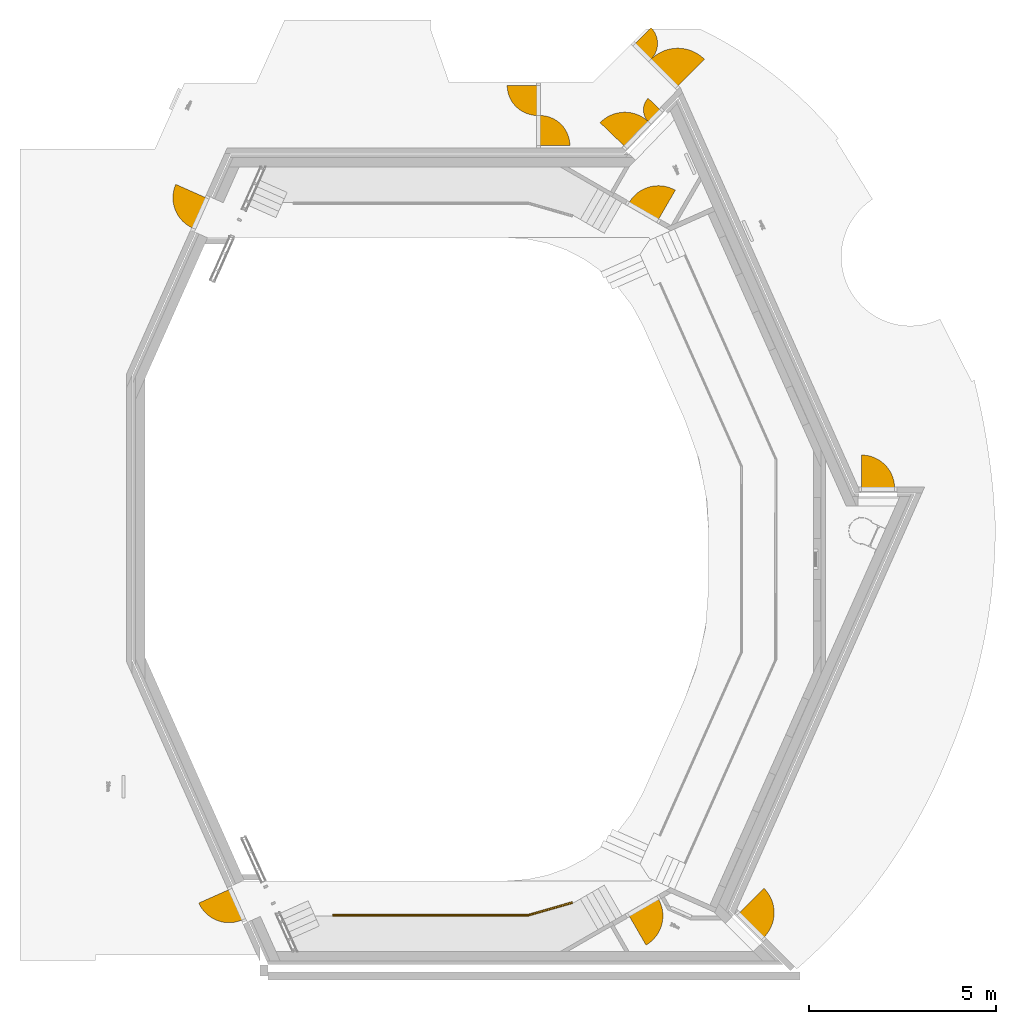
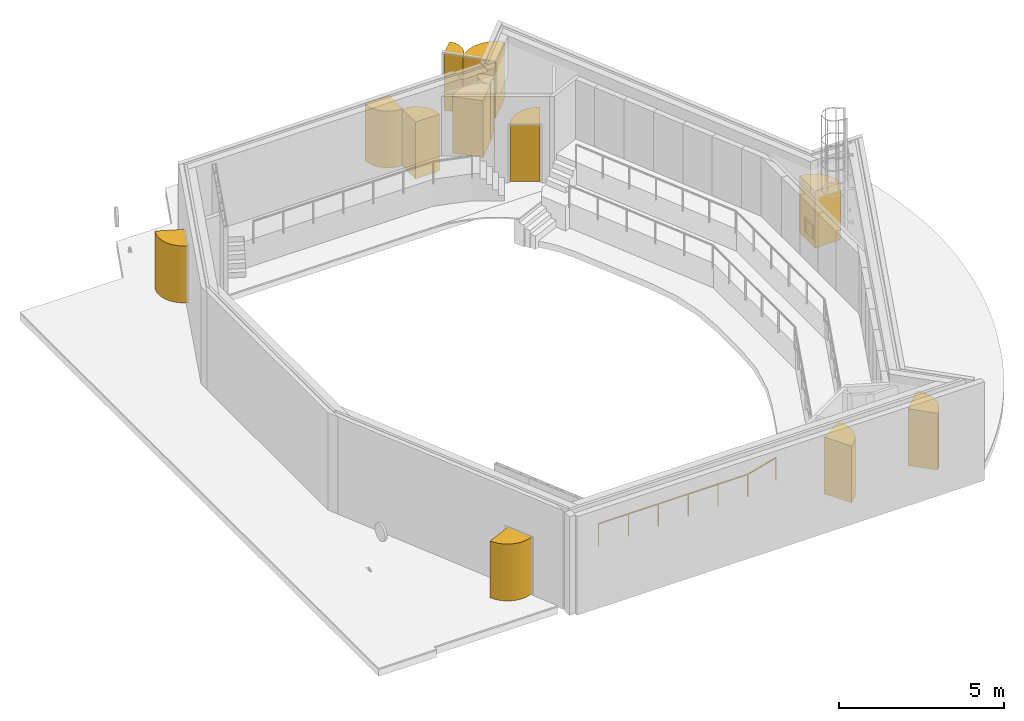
# One storey, part 12 of 16: 12 doors, 2 railings, 9 elements without a shape of their own.
"""IFC2X3 building model written with IfcOpenShell, lengths in millimetres."""

from ifc_helpers import new_model, entity, si_unit, converted_unit, derived_unit, direction, frame, frame_2d, origin, origin_2d_with_axis, place, context, subcontext, project, spatial, polyline, circle_curve, parameter, trimmed, segment, composite_curve, rectangle, circle, outline, extrude, source, transform, mapped, material, material_list, type_object, type_shapes, element, aggregate, save


model = new_model("IFC2X3")

# Units and contexts
model_context = context("Model", 3, precision=0.01, world=origin(), true_north=direction((6.123031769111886e-17, 1.0)))
body_context = subcontext(model_context, "Body", "Model", "MODEL_VIEW")
ifc_project = project(units=[si_unit("LENGTHUNIT", "METRE", prefix="MILLI"), si_unit("AREAUNIT", "SQUARE_METRE"), si_unit("VOLUMEUNIT", "CUBIC_METRE"), converted_unit("PLANEANGLEUNIT", "DEGREE", entity("IfcRatioMeasure", 0.017453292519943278), si_unit("PLANEANGLEUNIT", "RADIAN"), dimensions=[0, 0, 0, 0, 0, 0, 0]), si_unit("MASSUNIT", "GRAM", prefix="KILO"), derived_unit("MASSDENSITYUNIT", [(si_unit("MASSUNIT", "GRAM", prefix="KILO"), 1), (si_unit("LENGTHUNIT", "METRE"), -3)]), derived_unit("MOMENTOFINERTIAUNIT", [(si_unit("LENGTHUNIT", "METRE"), 4)]), si_unit("TIMEUNIT", "SECOND"), si_unit("FREQUENCYUNIT", "HERTZ"), si_unit("THERMODYNAMICTEMPERATUREUNIT", "DEGREE_CELSIUS"), derived_unit("THERMALTRANSMITTANCEUNIT", [(si_unit("MASSUNIT", "GRAM", prefix="KILO"), 1), (si_unit("THERMODYNAMICTEMPERATUREUNIT", "KELVIN"), -1), (si_unit("TIMEUNIT", "SECOND"), -3)]), derived_unit("VOLUMETRICFLOWRATEUNIT", [(si_unit("LENGTHUNIT", "METRE"), 3), (si_unit("TIMEUNIT", "SECOND"), -1)]), derived_unit("MASSFLOWRATEUNIT", [(si_unit("MASSUNIT", "GRAM", prefix="KILO"), 1), (si_unit("TIMEUNIT", "SECOND"), -1)]), derived_unit("ROTATIONALFREQUENCYUNIT", [(si_unit("TIMEUNIT", "SECOND"), -1)]), si_unit("ELECTRICCURRENTUNIT", "AMPERE"), si_unit("ELECTRICVOLTAGEUNIT", "VOLT"), si_unit("POWERUNIT", "WATT"), si_unit("FORCEUNIT", "NEWTON", prefix="KILO"), si_unit("ILLUMINANCEUNIT", "LUX"), si_unit("LUMINOUSFLUXUNIT", "LUMEN"), si_unit("LUMINOUSINTENSITYUNIT", "CANDELA"), derived_unit("USERDEFINED", [(si_unit("MASSUNIT", "GRAM", prefix="KILO"), -1), (si_unit("LENGTHUNIT", "METRE"), -2), (si_unit("TIMEUNIT", "SECOND"), 3), (si_unit("LUMINOUSFLUXUNIT", "LUMEN"), 1)]), derived_unit("SOUNDPOWERUNIT", [(si_unit("MASSUNIT", "GRAM", prefix="KILO"), 1), (si_unit("LENGTHUNIT", "METRE"), 2), (si_unit("TIMEUNIT", "SECOND"), -3)]), derived_unit("SOUNDPRESSUREUNIT", [(si_unit("MASSUNIT", "GRAM", prefix="KILO"), 1), (si_unit("LENGTHUNIT", "METRE"), -1), (si_unit("TIMEUNIT", "SECOND"), -2)]), derived_unit("LINEARVELOCITYUNIT", [(si_unit("LENGTHUNIT", "METRE"), 1), (si_unit("TIMEUNIT", "SECOND"), -1)]), si_unit("PRESSUREUNIT", "PASCAL"), derived_unit("USERDEFINED", [(si_unit("LENGTHUNIT", "METRE"), -2), (si_unit("MASSUNIT", "GRAM", prefix="KILO"), 1), (si_unit("TIMEUNIT", "SECOND"), -2)]), derived_unit("LINEARFORCEUNIT", [(si_unit("MASSUNIT", "GRAM", prefix="KILO"), 1), (si_unit("LENGTHUNIT", "METRE"), 1), (si_unit("TIMEUNIT", "SECOND"), -2), (si_unit("LENGTHUNIT", "METRE"), -1)]), derived_unit("PLANARFORCEUNIT", [(si_unit("MASSUNIT", "GRAM", prefix="KILO"), 1), (si_unit("LENGTHUNIT", "METRE"), 1), (si_unit("TIMEUNIT", "SECOND"), -2), (si_unit("LENGTHUNIT", "METRE"), -2)])], contexts=[model_context])

# Site, building, storey
site_placement = place(None, frame((-10000.0, -10000.0, 0.0)))
site = spatial("IfcSite", under=ifc_project, at=site_placement, Name="Default", CompositionType="ELEMENT")
building_placement = place(site_placement, origin())
building = spatial("IfcBuilding", under=site, at=building_placement, CompositionType="ELEMENT")
storey_placement = place(building_placement, frame((0.0, 0.0, 9000.0)))
storey = spatial("IfcBuildingStorey", under=building, at=storey_placement, Name="02 2e verdieping", CompositionType="ELEMENT", Elevation=9000.0)

# Curtain wall, door
curtain_wall_type = type_object("IfcCurtainWallType", Name="Curtain Wall:NLRS_32_CWA_houten binnenkozijnen ts90_ags", PredefinedType="NOTDEFINED")
curtain_wall_1_placement = place(storey_placement, frame((0.0, 0.0, -9000.0)))
curtain_wall_1 = element("IfcCurtainWall", 1, at=curtain_wall_1_placement, inside=storey, type_object=curtain_wall_type, Name="Curtain Wall:NLRS_32_CWA_houten binnenkozijnen ts90_ags", ObjectType="Curtain Wall:NLRS_32_CWA_houten binnenkozijnen ts90_ags")
ifc_material_1 = material(Name="NLRS_a_clashvolume")
ifc_material_2 = material(Name="<Unnamed>")
ifc_material_list_1 = material_list([ifc_material_1, ifc_material_2])
ifc_material_list_2 = material_list([ifc_material_1, ifc_material_2])
door_style_1 = type_object("IfcDoorStyle", Name="NLRS_31_DO_houten deur_ags:deur dicht", ConstructionType="NOTDEFINED", OperationType="NOTDEFINED", ParameterTakesPrecedence=False, Sizeable=False, material=ifc_material_list_2)
shared_shape_1 = source(origin(), body_context, "Body", "SweptSolid", [
    extrude(outline(composite_curve([segment(trimmed(circle_curve(frame_2d((-302.0, 302.0), x_axis=(1.0, 0.0)), 906.0000000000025), [parameter(270.0)], [parameter(0.0)], True, "PARAMETER"), True, "CONTINUOUS"), segment(polyline([(604.0, 302.0), (-302.0, 302.0)]), True, "CONTINUOUS"), segment(polyline([(-302.0, 302.0), (-302.0, -604.0)]), True, "CONTINUOUS")], self_intersect=False)), frame((-151.0, -334.5000000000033, 0.0)), (0.0, 0.0, 1.0), 2103.0),
    extrude(rectangle(XDim=40.00000000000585, YDim=906.0000000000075, at=origin_2d_with_axis()), frame((0.0, -12.499999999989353, 0.0), z_axis=(0.0, 0.0, 1.0), x_axis=(0.0, 1.0, 0.0)), (0.0, 0.0, 1.0), 2103.0),
])
type_shapes(door_style_1, [shared_shape_1])
door_1_placement = place(curtain_wall_1_placement, frame((39119.472926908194, 29339.328285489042, 9000.0), z_axis=(0.0, 0.0, 1.0), x_axis=(0.8660254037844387, 0.5000000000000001, 0.0)))
door_1 = element("IfcDoor", 2, at=door_1_placement, type_object=door_style_1, material=ifc_material_list_1, Name="NLRS_31_DO_houten deur_ags:deur dicht", ObjectType="NLRS_31_DO_houten deur_ags:deur dicht", OverallHeight=2103.000000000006, OverallWidth=906.0000000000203, context=body_context, shape_type="MappedRepresentation", body=[
    mapped(shared_shape_1, transform((0.0, 0.0, 0.0), scale=1.0)),
])
aggregate(curtain_wall_1, [door_1])

curtain_wall_2_placement = place(storey_placement, frame((0.0, 0.0, -9000.0)))
curtain_wall_2 = element("IfcCurtainWall", 3, at=curtain_wall_2_placement, inside=storey, type_object=curtain_wall_type, Name="Curtain Wall:NLRS_32_CWA_houten binnenkozijnen ts90_ags", ObjectType="Curtain Wall:NLRS_32_CWA_houten binnenkozijnen ts90_ags")
ifc_material_list_3 = material_list([ifc_material_1, ifc_material_2])
ifc_material_list_4 = material_list([ifc_material_1, ifc_material_2])
door_style_2 = type_object("IfcDoorStyle", Name="NLRS_31_DO_houten deur_ags:deur dicht", ConstructionType="NOTDEFINED", OperationType="NOTDEFINED", ParameterTakesPrecedence=False, Sizeable=False, material=ifc_material_list_4)
shared_shape_2 = source(origin(), body_context, "Body", "SweptSolid", [
    extrude(outline(composite_curve([segment(polyline([(-590.6666666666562, -295.3333333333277), (295.333333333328, -295.3333333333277)]), True, "CONTINUOUS"), segment(polyline([(295.333333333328, -295.3333333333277), (295.333333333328, 590.6666666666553)]), True, "CONTINUOUS"), segment(trimmed(circle_curve(frame_2d((295.333333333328, -295.3333333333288), x_axis=(0.0, 1.0)), 885.9999999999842), [parameter(0.0)], [parameter(89.99999999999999)], True, "PARAMETER"), True, "CONTINUOUS")], self_intersect=False)), frame((147.6666666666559, -327.83333333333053, 0.0), z_axis=(0.0, 0.0, 1.0), x_axis=(0.0, 1.0, 0.0)), (0.0, 0.0, 1.0), 2103.0),
    extrude(rectangle(XDim=885.9999999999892, YDim=40.00000000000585, at=origin_2d_with_axis()), frame((0.0, -12.499999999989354, 0.0)), (0.0, 0.0, 1.0), 2103.0),
])
type_shapes(door_style_2, [shared_shape_2])
door_2_placement = place(curtain_wall_2_placement, frame((45413.57361464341, 40510.979027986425, 9000.0), z_axis=(0.0, 0.0, 1.0), x_axis=(-1.0, 0.0, 0.0)))
door_2 = element("IfcDoor", 4, at=door_2_placement, type_object=door_style_2, material=ifc_material_list_3, Name="NLRS_31_DO_houten deur_ags:deur dicht", ObjectType="NLRS_31_DO_houten deur_ags:deur dicht", OverallHeight=2103.000000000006, OverallWidth=886.0000000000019, context=body_context, shape_type="MappedRepresentation", body=[
    mapped(shared_shape_2, transform((0.0, 0.0, 0.0), scale=1.0)),
])
aggregate(curtain_wall_2, [door_2])

curtain_wall_3_placement = place(storey_placement, frame((0.0, 0.0, -9000.0)))
curtain_wall_3 = element("IfcCurtainWall", 5, at=curtain_wall_3_placement, inside=storey, type_object=curtain_wall_type, Name="Curtain Wall:NLRS_32_CWA_houten binnenkozijnen ts90_ags", ObjectType="Curtain Wall:NLRS_32_CWA_houten binnenkozijnen ts90_ags")
ifc_material_list_5 = material_list([ifc_material_1, ifc_material_2])
ifc_material_list_6 = material_list([ifc_material_1, ifc_material_2])
door_style_3 = type_object("IfcDoorStyle", Name="NLRS_31_DO_houten deur_ags:deur dicht", ConstructionType="NOTDEFINED", OperationType="NOTDEFINED", ParameterTakesPrecedence=False, Sizeable=False, material=ifc_material_list_6)
shared_shape_3 = source(origin(), body_context, "Body", "SweptSolid", [
    extrude(outline(composite_curve([segment(polyline([(-620.6666666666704, -310.3333333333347), (310.33333333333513, -310.3333333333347)]), True, "CONTINUOUS"), segment(polyline([(310.33333333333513, -310.33333333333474), (310.33333333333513, 620.6666666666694)]), True, "CONTINUOUS"), segment(trimmed(circle_curve(frame_2d((310.33333333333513, -310.33333333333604), x_axis=(0.0, 1.0)), 931.0000000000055), [parameter(0.0)], [parameter(89.99999999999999)], True, "PARAMETER"), True, "CONTINUOUS")], self_intersect=False)), frame((155.16666666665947, -342.83333333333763, 0.0), z_axis=(0.0, 0.0, 1.0), x_axis=(0.0, 1.0, 0.0)), (0.0, 0.0, 1.0), 2103.0),
    extrude(rectangle(XDim=931.0000000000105, YDim=40.00000000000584, at=origin_2d_with_axis()), frame((0.0, -12.499999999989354, 0.0)), (0.0, 0.0, 1.0), 2103.0),
])
type_shapes(door_style_3, [shared_shape_3])
door_3_placement = place(curtain_wall_3_placement, frame((42003.218005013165, 28814.782664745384, 9000.0), z_axis=(0.0, 0.0, 1.0), x_axis=(-0.7071067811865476, 0.7071067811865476, 0.0)))
door_3 = element("IfcDoor", 6, at=door_3_placement, type_object=door_style_3, material=ifc_material_list_5, Name="NLRS_31_DO_houten deur_ags:deur dicht", ObjectType="NLRS_31_DO_houten deur_ags:deur dicht", OverallHeight=2103.000000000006, OverallWidth=931.0000000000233, context=body_context, shape_type="MappedRepresentation", body=[
    mapped(shared_shape_3, transform((0.0, 0.0, 0.0), scale=1.0)),
])
aggregate(curtain_wall_3, [door_3])

# Curtain wall, doors
curtain_wall_4_placement = place(storey_placement, frame((0.0, 0.0, -9000.0)))
curtain_wall_4 = element("IfcCurtainWall", 7, at=curtain_wall_4_placement, inside=storey, type_object=curtain_wall_type, Name="Curtain Wall:NLRS_32_CWA_houten binnenkozijnen ts90_ags", ObjectType="Curtain Wall:NLRS_32_CWA_houten binnenkozijnen ts90_ags")
ifc_material_list_7 = material_list([ifc_material_1, ifc_material_2])
ifc_material_list_8 = material_list([ifc_material_1, ifc_material_2])
door_style_4 = type_object("IfcDoorStyle", Name="NLRS_31_DO_houten deur_ags:deur dicht", ConstructionType="NOTDEFINED", OperationType="NOTDEFINED", ParameterTakesPrecedence=False, Sizeable=False, material=ifc_material_list_8)
shared_shape_4 = source(origin(), body_context, "Body", "SweptSolid", [
    extrude(outline(composite_curve([segment(trimmed(circle_curve(frame_2d((-269.33174976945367, 269.3317497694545), x_axis=(1.0, 0.0)), 807.9952493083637), [parameter(270.0)], [parameter(0.0)], True, "PARAMETER"), True, "CONTINUOUS"), segment(polyline([(538.66349953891, 269.3317497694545), (-269.3317497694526, 269.3317497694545)]), True, "CONTINUOUS"), segment(polyline([(-269.3317497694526, 269.3317497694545), (-269.3317497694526, -538.6634995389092)]), True, "CONTINUOUS")], self_intersect=False)), frame((-134.66587488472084, -301.831749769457, 0.0)), (0.0, 0.0, 1.0), 2103.0),
    extrude(rectangle(XDim=40.00000000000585, YDim=807.9952493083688, at=origin_2d_with_axis()), frame((0.0, -12.499999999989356, 0.0), z_axis=(0.0, 0.0, 1.0), x_axis=(0.0, 1.0, 0.0)), (0.0, 0.0, 1.0), 2103.0),
])
type_shapes(door_style_4, [shared_shape_4])
door_4_placement = place(curtain_wall_4_placement, frame((36317.06459566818, 50930.99762465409, 9000.0), z_axis=(0.0, 0.0, 1.0), x_axis=(0.0, -1.0, 0.0)))
door_4 = element("IfcDoor", 8, at=door_4_placement, type_object=door_style_4, material=ifc_material_list_7, Name="NLRS_31_DO_houten deur_ags:deur dicht", ObjectType="NLRS_31_DO_houten deur_ags:deur dicht", OverallHeight=2103.000000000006, OverallWidth=807.9952493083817, context=body_context, shape_type="MappedRepresentation", body=[
    mapped(shared_shape_4, transform((0.0, 0.0, 0.0), scale=1.0)),
])
ifc_material_list_9 = material_list([ifc_material_1, ifc_material_2])
ifc_material_list_10 = material_list([ifc_material_1, ifc_material_2])
door_style_5 = type_object("IfcDoorStyle", Name="NLRS_31_DO_houten deur_ags:deur dicht", ConstructionType="NOTDEFINED", OperationType="NOTDEFINED", ParameterTakesPrecedence=False, Sizeable=False, material=ifc_material_list_10)
shared_shape_5 = source(origin(), body_context, "Body", "SweptSolid", [
    extrude(outline(composite_curve([segment(trimmed(circle_curve(frame_2d((-269.3333333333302, 269.333333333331), x_axis=(1.0, 0.0)), 807.9999999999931), [parameter(270.0)], [parameter(0.0)], True, "PARAMETER"), True, "CONTINUOUS"), segment(polyline([(538.6666666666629, 269.333333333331), (-269.3333333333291, 269.333333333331)]), True, "CONTINUOUS"), segment(polyline([(-269.3333333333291, 269.333333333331), (-269.3333333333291, -538.6666666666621)]), True, "CONTINUOUS")], self_intersect=False)), frame((-134.66666666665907, -301.8333333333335, 0.0)), (0.0, 0.0, 1.0), 2103.0),
    extrude(rectangle(XDim=40.00000000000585, YDim=807.9999999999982, at=origin_2d_with_axis()), frame((0.0, -12.499999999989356, 0.0), z_axis=(0.0, 0.0, 1.0), x_axis=(0.0, 1.0, 0.0)), (0.0, 0.0, 1.0), 2103.0),
])
type_shapes(door_style_5, [shared_shape_5])
door_5_placement = place(curtain_wall_4_placement, frame((36317.06459566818, 50123.0, 9000.0), z_axis=(0.0, 0.0, 1.0), x_axis=(0.0, 1.0, 0.0)))
door_5 = element("IfcDoor", 9, at=door_5_placement, type_object=door_style_5, material=ifc_material_list_9, Name="NLRS_31_DO_houten deur_ags:deur dicht", ObjectType="NLRS_31_DO_houten deur_ags:deur dicht", OverallHeight=2103.000000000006, OverallWidth=808.0000000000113, context=body_context, shape_type="MappedRepresentation", body=[
    mapped(shared_shape_5, transform((0.0, 0.0, 0.0), scale=1.0)),
])
aggregate(curtain_wall_4, [door_4, door_5])

curtain_wall_5_placement = place(storey_placement, frame((0.0, 0.0, -9000.0)))
curtain_wall_5 = element("IfcCurtainWall", 10, at=curtain_wall_5_placement, inside=storey, type_object=curtain_wall_type, Name="Curtain Wall:NLRS_32_CWA_houten binnenkozijnen ts90_ags", ObjectType="Curtain Wall:NLRS_32_CWA_houten binnenkozijnen ts90_ags")
ifc_material_list_11 = material_list([ifc_material_1, ifc_material_2])
ifc_material_list_12 = material_list([ifc_material_1, ifc_material_2])
door_style_6 = type_object("IfcDoorStyle", Name="NLRS_31_DO_houten deur_ags:deur dicht", ConstructionType="NOTDEFINED", OperationType="NOTDEFINED", ParameterTakesPrecedence=False, Sizeable=False, material=ifc_material_list_12)
shared_shape_6 = source(origin(), body_context, "Body", "SweptSolid", [
    extrude(outline(composite_curve([segment(polyline([(-612.0, -306.0), (306.0, -306.0)]), True, "CONTINUOUS"), segment(polyline([(306.0, -306.0), (306.0, 612.0)]), True, "CONTINUOUS"), segment(trimmed(circle_curve(frame_2d((306.0, -306.0), x_axis=(0.0, 1.0)), 917.9999999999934), [parameter(0.0)], [parameter(89.99999999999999)], True, "PARAMETER"), True, "CONTINUOUS")], self_intersect=False)), frame((153.0, -338.50000000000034, 0.0), z_axis=(0.0, 0.0, 1.0), x_axis=(0.0, 1.0, 0.0)), (0.0, 0.0, 1.0), 2103.0000000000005),
    extrude(rectangle(XDim=917.9999999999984, YDim=40.00000000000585, at=frame_2d((0.0, 1.7763568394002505e-15), x_axis=(1.0, 0.0))), frame((0.0, -12.499999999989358, 0.0)), (0.0, 0.0, 1.0), 2103.0000000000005),
])
type_shapes(door_style_6, [shared_shape_6])
door_6_placement = place(curtain_wall_5_placement, frame((38968.67530786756, 50004.321213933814, 9000.0), z_axis=(0.0, 0.0, 1.0), x_axis=(-0.6943722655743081, -0.7196159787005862, 0.0)))
door_6 = element("IfcDoor", 11, at=door_6_placement, type_object=door_style_6, material=ifc_material_list_11, Name="NLRS_31_DO_houten deur_ags:deur dicht", ObjectType="NLRS_31_DO_houten deur_ags:deur dicht", OverallHeight=2103.0000000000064, OverallWidth=918.0000000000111, context=body_context, shape_type="MappedRepresentation", body=[
    mapped(shared_shape_6, transform((0.0, 0.0, 0.0), scale=1.0)),
])
ifc_material_list_13 = material_list([ifc_material_1, ifc_material_2])
ifc_material_list_14 = material_list([ifc_material_1, ifc_material_2])
door_style_7 = type_object("IfcDoorStyle", Name="NLRS_31_DO_houten deur_ags:deur dicht", ConstructionType="NOTDEFINED", OperationType="NOTDEFINED", ParameterTakesPrecedence=False, Sizeable=False, material=ifc_material_list_14)
shared_shape_7 = source(origin(), body_context, "Body", "SweptSolid", [
    extrude(outline(composite_curve([segment(trimmed(circle_curve(frame_2d((-149.25367135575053, 149.25367135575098), x_axis=(1.0, 0.0)), 447.76101406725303), [parameter(270.0)], [parameter(0.0)], True, "PARAMETER"), True, "CONTINUOUS"), segment(polyline([(298.5073427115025, 149.25367135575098), (-149.25367135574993, 149.25367135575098)]), True, "CONTINUOUS"), segment(polyline([(-149.25367135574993, 149.25367135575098), (-149.25367135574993, -298.507342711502)]), True, "CONTINUOUS")], self_intersect=False)), frame((-74.62683567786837, -181.75367135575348, 0.0)), (0.0, 0.0, 1.0), 2103.0000000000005),
    extrude(rectangle(XDim=40.00000000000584, YDim=447.76101406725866, at=origin_2d_with_axis()), frame((0.0, -12.499999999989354, 0.0), z_axis=(0.0, 0.0, 1.0), x_axis=(0.0, 1.0, 0.0)), (0.0, 0.0, 1.0), 2103.0000000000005),
])
type_shapes(door_style_7, [shared_shape_7])
door_7_placement = place(curtain_wall_5_placement, frame((39442.84859265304, 50495.73293833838, 9000.0), z_axis=(0.0, 0.0, 1.0), x_axis=(-0.6943722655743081, -0.7196159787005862, 0.0)))
door_7 = element("IfcDoor", 12, at=door_7_placement, type_object=door_style_7, material=ifc_material_list_13, Name="NLRS_31_DO_houten deur_ags:deur dicht", ObjectType="NLRS_31_DO_houten deur_ags:deur dicht", OverallHeight=2103.0000000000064, OverallWidth=447.7610140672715, context=body_context, shape_type="MappedRepresentation", body=[
    mapped(shared_shape_7, transform((0.0, 0.0, 0.0), scale=1.0)),
])
aggregate(curtain_wall_5, [door_6, door_7])

# Curtain wall, door
curtain_wall_6_placement = place(storey_placement, frame((0.0, 0.0, -9000.0)))
curtain_wall_6 = element("IfcCurtainWall", 13, at=curtain_wall_6_placement, inside=storey, type_object=curtain_wall_type, Name="Curtain Wall:NLRS_32_CWA_houten binnenkozijnen ts90_ags", ObjectType="Curtain Wall:NLRS_32_CWA_houten binnenkozijnen ts90_ags")
ifc_material_list_15 = material_list([ifc_material_1, ifc_material_2])
ifc_material_list_16 = material_list([ifc_material_1, ifc_material_2])
door_style_8 = type_object("IfcDoorStyle", Name="NLRS_31_DO_houten deur_ags:deur dicht", ConstructionType="NOTDEFINED", OperationType="NOTDEFINED", ParameterTakesPrecedence=False, Sizeable=False, material=ifc_material_list_16)
shared_shape_8 = source(origin(), body_context, "Body", "SweptSolid", [
    extrude(outline(composite_curve([segment(trimmed(circle_curve(frame_2d((-295.33333333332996, 295.3333333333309), x_axis=(1.0, 0.0)), 885.9999999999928), [parameter(270.0)], [parameter(0.0)], True, "PARAMETER"), True, "CONTINUOUS"), segment(polyline([(590.6666666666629, 295.3333333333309), (-295.33333333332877, 295.3333333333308)]), True, "CONTINUOUS"), segment(polyline([(-295.33333333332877, 295.3333333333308), (-295.33333333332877, -590.666666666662)]), True, "CONTINUOUS")], self_intersect=False)), frame((-147.66666666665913, -327.8333333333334, 0.0)), (0.0, 0.0, 1.0), 2103.0000000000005),
    extrude(rectangle(XDim=40.00000000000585, YDim=885.9999999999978, at=origin_2d_with_axis()), frame((0.0, -12.499999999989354, 0.0), z_axis=(0.0, 0.0, 1.0), x_axis=(0.0, 1.0, 0.0)), (0.0, 0.0, 1.0), 2103.0000000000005),
])
type_shapes(door_style_8, [shared_shape_8])
door_8_placement = place(curtain_wall_6_placement, frame((27257.05198340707, 47904.33407408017, 9000.0), z_axis=(0.0, 0.0, 1.0), x_axis=(-0.40673664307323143, -0.9135454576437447, 0.0)))
door_8 = element("IfcDoor", 14, at=door_8_placement, type_object=door_style_8, material=ifc_material_list_15, Name="NLRS_31_DO_houten deur_ags:deur dicht", ObjectType="NLRS_31_DO_houten deur_ags:deur dicht", OverallHeight=2103.0000000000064, OverallWidth=886.0000000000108, context=body_context, shape_type="MappedRepresentation", body=[
    mapped(shared_shape_8, transform((0.0, 0.0, 0.0), scale=1.0)),
])
aggregate(curtain_wall_6, [door_8])

curtain_wall_7_placement = place(storey_placement, frame((0.0, 0.0, -9000.0)))
curtain_wall_7 = element("IfcCurtainWall", 15, at=curtain_wall_7_placement, inside=storey, type_object=curtain_wall_type, Name="Curtain Wall:NLRS_32_CWA_houten binnenkozijnen ts90_ags", ObjectType="Curtain Wall:NLRS_32_CWA_houten binnenkozijnen ts90_ags")
ifc_material_list_17 = material_list([ifc_material_1, ifc_material_2])
door_9_placement = place(curtain_wall_7_placement, frame((28233.561823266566, 29395.20437845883, 9000.0), z_axis=(0.0, 0.0, 1.0), x_axis=(0.4067366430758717, -0.9135454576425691, 0.0)))
door_9 = element("IfcDoor", 16, at=door_9_placement, type_object=door_style_8, material=ifc_material_list_17, Name="NLRS_31_DO_houten deur_ags:deur dicht", ObjectType="NLRS_31_DO_houten deur_ags:deur dicht", OverallHeight=2103.0000000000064, OverallWidth=886.0000000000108, context=body_context, shape_type="MappedRepresentation", body=[
    mapped(shared_shape_8, transform((0.0, 0.0, 0.0), scale=1.0)),
])
aggregate(curtain_wall_7, [door_9])

# Curtain wall, doors
curtain_wall_8_placement = place(storey_placement, frame((0.0, 0.0, -9000.0)))
curtain_wall_8 = element("IfcCurtainWall", 17, at=curtain_wall_8_placement, inside=storey, type_object=curtain_wall_type, Name="Curtain Wall:NLRS_32_CWA_houten binnenkozijnen ts90_ags", ObjectType="Curtain Wall:NLRS_32_CWA_houten binnenkozijnen ts90_ags")
ifc_material_list_18 = material_list([ifc_material_1, ifc_material_2])
ifc_material_list_19 = material_list([ifc_material_1, ifc_material_2])
door_style_9 = type_object("IfcDoorStyle", Name="NLRS_31_DO_houten deur_ags:deur dicht", ConstructionType="NOTDEFINED", OperationType="NOTDEFINED", ParameterTakesPrecedence=False, Sizeable=False, material=ifc_material_list_19)
shared_shape_9 = source(origin(), body_context, "Body", "SweptSolid", [
    extrude(outline(composite_curve([segment(polyline([(-399.0999125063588, -199.54995625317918), (199.54995625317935, -199.54995625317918)]), True, "CONTINUOUS"), segment(polyline([(199.54995625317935, -199.54995625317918), (199.54995625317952, 399.0999125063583)]), True, "CONTINUOUS"), segment(trimmed(circle_curve(frame_2d((199.5499562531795, -199.54995625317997), x_axis=(0.0, 1.0)), 598.6498687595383), [parameter(0.0)], [parameter(89.99999999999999)], True, "PARAMETER"), True, "CONTINUOUS")], self_intersect=False)), frame((99.77497812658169, -232.049956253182, 0.0), z_axis=(0.0, 0.0, 1.0), x_axis=(0.0, 1.0, 0.0)), (0.0, 0.0, 1.0), 2103.0000000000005),
    extrude(rectangle(XDim=598.6498687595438, YDim=40.00000000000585, at=origin_2d_with_axis()), frame((0.0, -12.499999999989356, 0.0)), (0.0, 0.0, 1.0), 2103.0000000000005),
])
type_shapes(door_style_9, [shared_shape_9])
door_10_placement = place(curtain_wall_8_placement, frame((39095.06874343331, 52221.062893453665, 9000.0), z_axis=(0.0, 0.0, 1.0), x_axis=(-0.7071067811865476, 0.7071067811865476, 0.0)))
door_10 = element("IfcDoor", 18, at=door_10_placement, type_object=door_style_9, material=ifc_material_list_18, Name="NLRS_31_DO_houten deur_ags:deur dicht", ObjectType="NLRS_31_DO_houten deur_ags:deur dicht", OverallHeight=2103.0000000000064, OverallWidth=598.6498687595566, context=body_context, shape_type="MappedRepresentation", body=[
    mapped(shared_shape_9, transform((0.0, 0.0, 0.0), scale=1.0)),
])
ifc_material_list_20 = material_list([ifc_material_1, ifc_material_2])
ifc_material_list_21 = material_list([ifc_material_1, ifc_material_2])
door_style_10 = type_object("IfcDoorStyle", Name="NLRS_31_DO_houten deur_ags:deur dicht", ConstructionType="NOTDEFINED", OperationType="NOTDEFINED", ParameterTakesPrecedence=False, Sizeable=False, material=ifc_material_list_21)
shared_shape_10 = source(origin(), body_context, "Body", "SweptSolid", [
    extrude(outline(composite_curve([segment(trimmed(circle_curve(frame_2d((-337.6666666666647, 337.6666666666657), x_axis=(1.0, 0.0)), 1012.9999999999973), [parameter(270.0)], [parameter(0.0)], True, "PARAMETER"), True, "CONTINUOUS"), segment(polyline([(675.3333333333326, 337.6666666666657), (-337.6666666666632, 337.6666666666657)]), True, "CONTINUOUS"), segment(polyline([(-337.6666666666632, 337.6666666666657), (-337.6666666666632, -675.3333333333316)]), True, "CONTINUOUS")], self_intersect=False)), frame((-168.83333333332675, -370.1666666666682, 0.0)), (0.0, 0.0, 1.0), 2103.0),
    extrude(rectangle(XDim=40.00000000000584, YDim=1013.0000000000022, at=origin_2d_with_axis()), frame((0.0, -12.499999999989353, 0.0), z_axis=(0.0, 0.0, 1.0), x_axis=(0.0, 1.0, 0.0)), (0.0, 0.0, 1.0), 2103.0),
])
type_shapes(door_style_10, [shared_shape_10])
door_11_placement = place(curtain_wall_8_placement, frame((39664.87301898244, 51651.25861790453, 9000.0), z_axis=(0.0, 0.0, 1.0), x_axis=(-0.7071067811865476, 0.7071067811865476, 0.0)))
door_11 = element("IfcDoor", 19, at=door_11_placement, type_object=door_style_10, material=ifc_material_list_20, Name="NLRS_31_DO_houten deur_ags:deur dicht", ObjectType="NLRS_31_DO_houten deur_ags:deur dicht", OverallHeight=2103.000000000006, OverallWidth=1013.000000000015, context=body_context, shape_type="MappedRepresentation", body=[
    mapped(shared_shape_10, transform((0.0, 0.0, 0.0), scale=1.0)),
])
aggregate(curtain_wall_8, [door_10, door_11])

# Curtain wall, door
curtain_wall_9_placement = place(storey_placement, frame((0.0, 0.0, -9000.0)))
curtain_wall_9 = element("IfcCurtainWall", 20, at=curtain_wall_9_placement, inside=storey, type_object=curtain_wall_type, Name="Curtain Wall:NLRS_32_CWA_houten binnenkozijnen ts90_ags", ObjectType="Curtain Wall:NLRS_32_CWA_houten binnenkozijnen ts90_ags")
ifc_material_list_22 = material_list([ifc_material_1, ifc_material_2])
ifc_material_list_23 = material_list([ifc_material_1, ifc_material_2])
door_style_11 = type_object("IfcDoorStyle", Name="NLRS_31_DO_houten deur_ags:deur dicht", ConstructionType="NOTDEFINED", OperationType="NOTDEFINED", ParameterTakesPrecedence=False, Sizeable=False, material=ifc_material_list_23)
shared_shape_11 = source(origin(), body_context, "Body", "SweptSolid", [
    extrude(outline(composite_curve([segment(trimmed(circle_curve(frame_2d((-302.0, 302.0), x_axis=(1.0, 0.0)), 905.9999999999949), [parameter(270.0)], [parameter(0.0)], True, "PARAMETER"), True, "CONTINUOUS"), segment(polyline([(604.0, 302.0), (-302.0, 302.0)]), True, "CONTINUOUS"), segment(polyline([(-302.0, 302.0), (-302.0, -604.0)]), True, "CONTINUOUS")], self_intersect=False)), frame((-151.0, -334.5000000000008, 0.0)), (0.0, 0.0, 1.0), 2103.0000000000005),
    extrude(rectangle(XDim=40.00000000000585, YDim=905.9999999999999, at=origin_2d_with_axis()), frame((0.0, -12.499999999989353, 0.0), z_axis=(0.0, 0.0, 1.0), x_axis=(0.0, 1.0, 0.0)), (0.0, 0.0, 1.0), 2103.0000000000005),
])
type_shapes(door_style_11, [shared_shape_11])
door_12_placement = place(curtain_wall_9_placement, frame((39119.472926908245, 47937.671713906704, 9000.0), z_axis=(0.0, 0.0, 1.0), x_axis=(-0.8660254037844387, 0.5000000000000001, 0.0)))
door_12 = element("IfcDoor", 21, at=door_12_placement, type_object=door_style_11, material=ifc_material_list_22, Name="NLRS_31_DO_houten deur_ags:deur dicht", ObjectType="NLRS_31_DO_houten deur_ags:deur dicht", OverallHeight=2103.0000000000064, OverallWidth=906.0000000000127, context=body_context, shape_type="MappedRepresentation", body=[
    mapped(shared_shape_11, transform((0.0, 0.0, 0.0), scale=1.0)),
])
aggregate(curtain_wall_9, [door_12])

# Railings
ifc_material_3 = material(Name="Default Metal")
ifc_material_4 = material(Name="Default")
ifc_material_list_24 = material_list([ifc_material_3, ifc_material_3, ifc_material_3, ifc_material_3, ifc_material_3, ifc_material_3, ifc_material_4])
railing_1_placement = place(storey_placement, origin())
element("IfcRailing", 22, at=railing_1_placement, inside=storey, material=ifc_material_list_24, Name="Railing:NLRS_34_RAI_buisleuning balkon", ObjectType="Railing:NLRS_34_RAI_buisleuning balkon", PredefinedType="NOTDEFINED", context=body_context, shape_type="SweptSolid", body=[
    extrude(rectangle(XDim=49.99999999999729, YDim=14.99999999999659, at=origin_2d_with_axis()), frame((34998.403355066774, 29100.0, 850.0), z_axis=(0.0, 0.0, 1.0), x_axis=(0.0, -1.0, 0.0)), (0.0, 0.0, 1.0), 800.0),
    extrude(rectangle(XDim=49.99999999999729, YDim=14.99999999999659, at=origin_2d_with_axis()), frame((33952.739546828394, 29100.0, 850.0), z_axis=(0.0, 0.0, 1.0), x_axis=(0.0, -1.0, 0.0)), (0.0, 0.0, 1.0), 800.0),
    extrude(rectangle(XDim=49.99999999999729, YDim=14.99999999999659, at=origin_2d_with_axis()), frame((32907.075738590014, 29100.0, 850.0), z_axis=(0.0, 0.0, 1.0), x_axis=(0.0, -1.0, 0.0)), (0.0, 0.0, 1.0), 800.0),
    extrude(rectangle(XDim=49.9999999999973, YDim=14.99999999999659, at=frame_2d((-4.332534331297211e-12, 0.0), x_axis=(1.0, 0.0))), frame((31861.411930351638, 29100.0, 850.0), z_axis=(0.0, 0.0, 1.0), x_axis=(0.0, -1.0, 0.0)), (0.0, 0.0, 1.0), 800.0),
    extrude(rectangle(XDim=49.9999999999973, YDim=14.99999999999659, at=frame_2d((4.332534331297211e-12, 0.0), x_axis=(1.0, 0.0))), frame((36044.067163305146, 29100.0, 850.0), z_axis=(0.0, 0.0, 1.0), x_axis=(0.0, -1.0, 0.0)), (0.0, 0.0, 1.0), 800.0),
    extrude(rectangle(XDim=49.9999999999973, YDim=14.99999999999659, at=frame_2d((-4.332534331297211e-12, -4.331202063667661e-12), x_axis=(1.0, 0.0))), frame((30815.74812211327, 29100.0, 850.0), z_axis=(0.0, 0.0, 1.0), x_axis=(0.0, -1.0, 0.0)), (0.0, 0.0, 1.0), 800.0),
    extrude(circle(Radius=25.0, at=origin_2d_with_axis()), frame((30815.748122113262, 29100.0, 1675.0), z_axis=(1.0, 0.0, 0.0), x_axis=(0.0, 1.0, 0.0)), (0.0, 0.0, 1.0), 5228.319041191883),
])
ifc_material_list_25 = material_list([ifc_material_3, ifc_material_3, ifc_material_4])
railing_2_placement = place(storey_placement, origin())
element("IfcRailing", 23, at=railing_2_placement, inside=storey, material=ifc_material_list_25, Name="Railing:NLRS_34_RAI_buisleuning balkon", ObjectType="Railing:NLRS_34_RAI_buisleuning balkon", PredefinedType="NOTDEFINED", context=body_context, shape_type="SweptSolid", body=[
    extrude(rectangle(XDim=49.99999999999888, YDim=14.999999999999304, at=origin_2d_with_axis()), frame((37214.457767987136, 29436.61159072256, 850.0), z_axis=(0.0, 0.0, 1.0), x_axis=(0.2756373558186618, -0.9612616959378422, 0.0)), (0.0, 0.0, 1.0), 799.9999999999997),
    extrude(rectangle(XDim=49.999999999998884, YDim=14.999999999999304, at=frame_2d((4.162004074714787e-12, -1.1937117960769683e-12), x_axis=(1.0, 0.0))), frame((36037.17622940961, 29099.03154179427, 850.0), z_axis=(0.0, 0.0, 1.0), x_axis=(0.2756373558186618, -0.9612616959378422, 0.0)), (0.0, 0.0, 1.0), 799.9999999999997),
    extrude(circle(Radius=25.0, at=origin_2d_with_axis()), frame((36037.17622940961, 29099.031541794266, 1675.0), z_axis=(0.9612616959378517, 0.2756373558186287, 0.0), x_axis=(-0.2756373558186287, 0.9612616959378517, 0.0)), (0.0, 0.0, 1.0), 1224.7253204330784),
])

save(model, "model.ifc")
